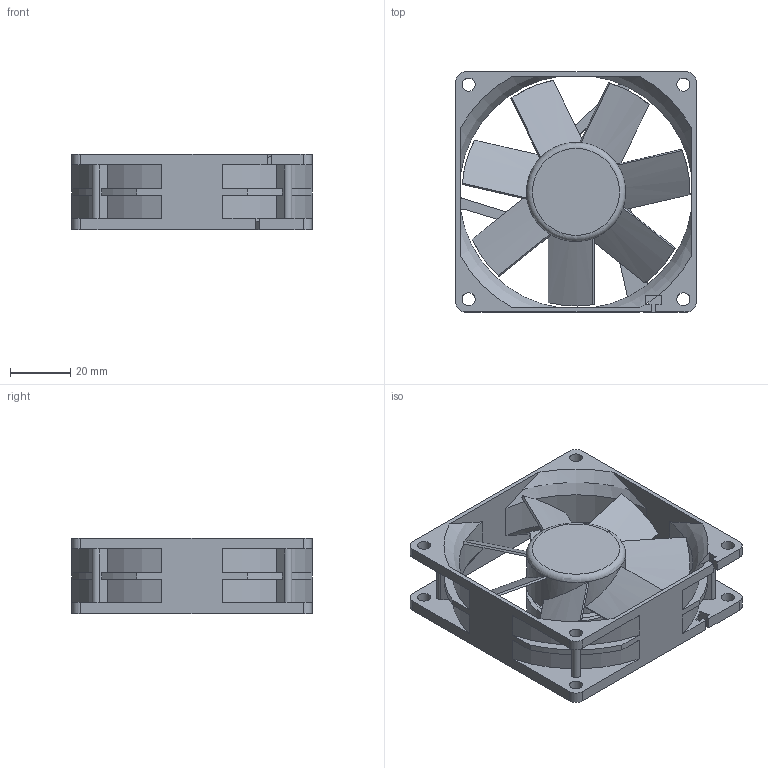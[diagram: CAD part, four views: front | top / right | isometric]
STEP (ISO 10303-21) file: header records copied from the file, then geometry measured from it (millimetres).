
FILE_DESCRIPTION(/* description */ (''),/* implementation_level */ '2;1');
FILE_NAME(/* name */ 'Fan_C8025.stp',/* time_stamp */ '2015-08-10T17:28:32+02:00',/* author */ ('DH'),/* organization */ ('Micronel AG'),/* preprocessor_version */ 'ST-DEVELOPER v11',/* originating_system */ 'SIEMENS PLM Software NX 7.5',/* authorisation */ '');
FILE_SCHEMA (('AUTOMOTIVE_DESIGN { 1 0 10303 214 1 1 1 1 }'));
Length unit declared in the file: millimetre
Products named in the file (1): model1
Bounding box: 80 x 80 x 25 mm (x, y, z)
Volume: 37508 mm3; surface area: 32239.7 mm2
Topology: 1 solids, 1 shells, 178 faces, 510 edges, 335 vertices
Faces by surface type: plane 93, cylinder 72, torus 9, bspline 4
Full cylindrical faces by diameter (mm): 4.4 x8, 6 x1, 30 x1, 31.4 x1, 33 x2
Entity records: 6015 total; most frequent: CARTESIAN_POINT 1331, ORIENTED_EDGE 982, DIRECTION 968, EDGE_CURVE 491, AXIS2_PLACEMENT_3D 353, VERTEX_POINT 331, LINE 262, VECTOR 262
